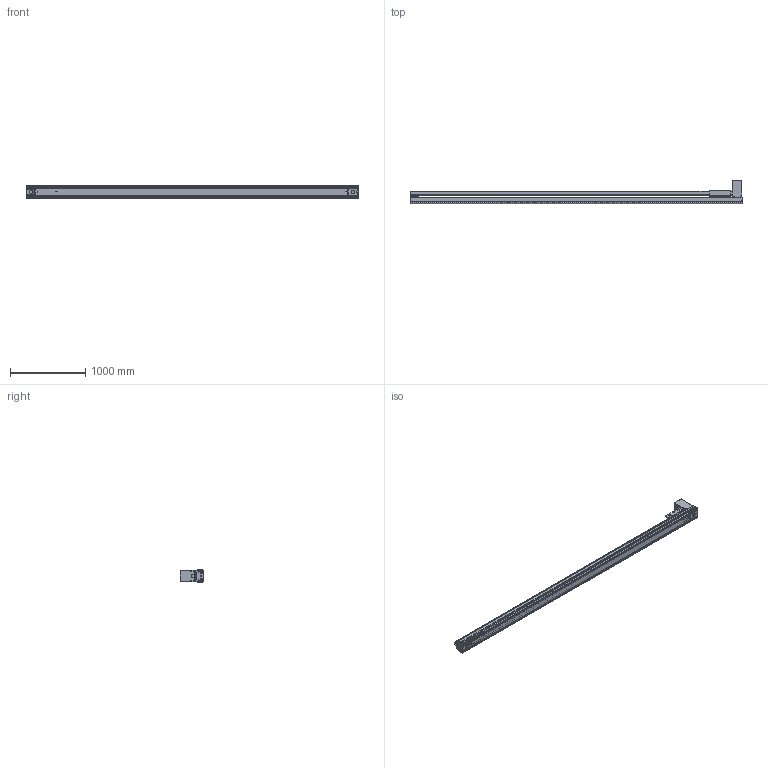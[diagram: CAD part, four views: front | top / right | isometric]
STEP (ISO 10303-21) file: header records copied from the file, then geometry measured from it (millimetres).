
FILE_DESCRIPTION((''),'2;1');
FILE_NAME('BE50G-BT-L19N-W85_IGS_PRT','2017-06-18T',(' '),(''),'PRO/ENGINEER BY PARAMETRIC TECHNOLOGY CORPORATION, 2015030','PRO/ENGINEER BY PARAMETRIC TECHNOLOGY CORPORATION, 2015030','');
FILE_SCHEMA(('CONFIG_CONTROL_DESIGN'));
Products named in the file (1): BE50G-BT-L19N-W85_IGS_PRT
Bounding box: 4420 x 309 x 160 mm (x, y, z)
Volume: 17784299.1 mm3; surface area: 8706596.4 mm2
Topology: 10 solids, 383 shells, 2369 faces, 7269 edges, 4980 vertices
Faces by surface type: cylinder 1405, plane 699, cone 222, sphere 23, torus 20
Entity records: 85646 total; most frequent: CARTESIAN_POINT 19734, DIRECTION 13830, ORIENTED_EDGE 13162, EDGE_CURVE 7195, AXIS2_PLACEMENT_3D 5300, VERTEX_POINT 4980, VECTOR 3230, LINE 3230
